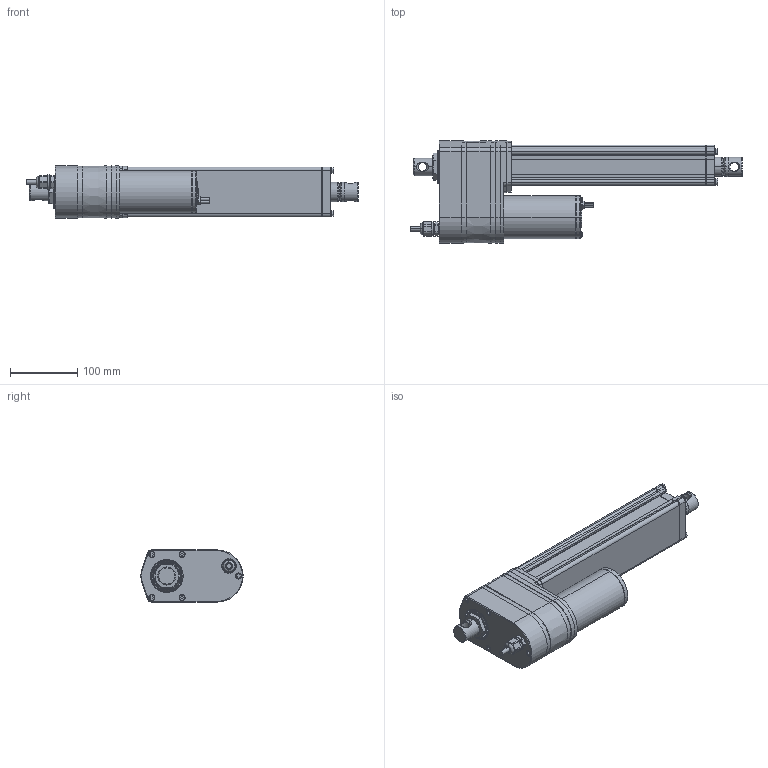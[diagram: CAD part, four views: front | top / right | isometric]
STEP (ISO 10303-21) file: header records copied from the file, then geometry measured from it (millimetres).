
FILE_DESCRIPTION((''),' ');
FILE_NAME('dszy12-200_lt_ltpot_lths.stp',' ',('MSW'),('MSW'),' ','ACIS 14.0',' ');
FILE_SCHEMA(('automotive_design'));
Length unit declared in the file: inch
Products named in the file (2): dszy12-200_lt_ltpot_lths
Bounding box: 492 x 151.7 x 77.2 mm (x, y, z)
Volume: 2538956.4 mm3; surface area: 259299.6 mm2
Topology: 2 solids, 2 shells, 1687 faces, 4097 edges, 2434 vertices
Faces by surface type: plane 1327, cylinder 232, cone 64, torus 40, bspline 24
Entity records: 62295 total; most frequent: CARTESIAN_POINT 8791, DIRECTION 8725, ORIENTED_EDGE 8146, EDGE_CURVE 4073, AXIS2_PLACEMENT_3D 3043, LINE 2639, VECTOR 2639, VERTEX_POINT 2434
